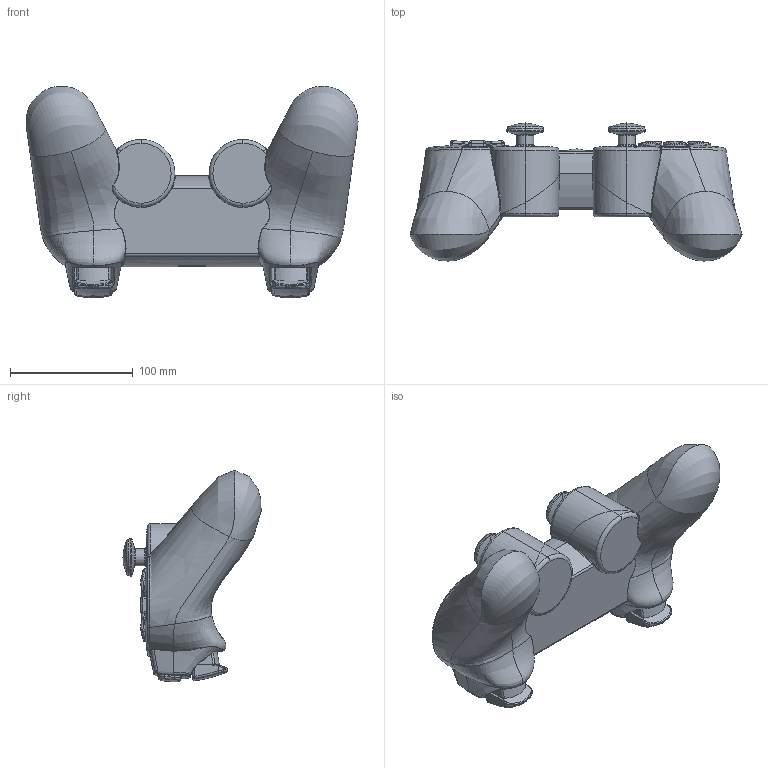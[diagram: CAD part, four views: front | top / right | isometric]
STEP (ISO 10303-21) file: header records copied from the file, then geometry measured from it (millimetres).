
FILE_DESCRIPTION (( 'STEP AP214' ), '1' );
FILE_NAME ('stick ps3.STEP', '2012-02-27T09:55:32', ( 'engineering' ), ( '' ), 'SwSTEP 2.0', 'SolidWorks 2011', '' );
FILE_SCHEMA (( 'AUTOMOTIVE_DESIGN' ));
Length unit declared in the file: millimetre
Products named in the file (1): stick ps3
Bounding box: 270.8 x 112.66 x 172.51 mm (x, y, z)
Surface area: 151288.9 mm2 (no closed solid volume)
Topology: 0 solids, 21 shells, 987 faces, 2517 edges, 1570 vertices
Faces by surface type: bspline 495, cylinder 208, plane 179, torus 60, sphere 37, cone 8
Entity records: 106740 total; most frequent: CARTESIAN_POINT 85436, ORIENTED_EDGE 4920, DIRECTION 2946, EDGE_CURVE 2462, VERTEX_POINT 1568, AXIS2_PLACEMENT_3D 1208, B_SPLINE_CURVE_WITH_KNOTS 1122, EDGE_LOOP 1041
